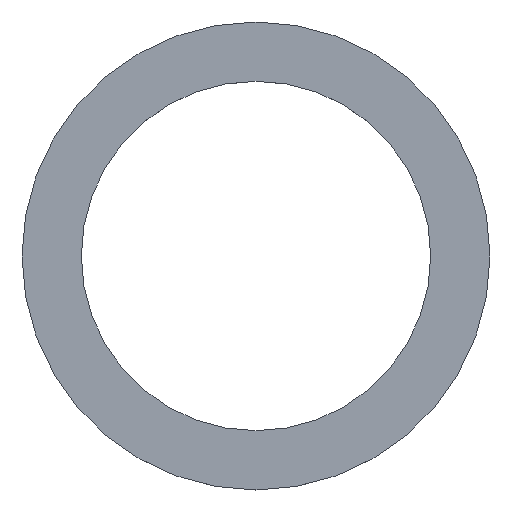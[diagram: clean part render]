
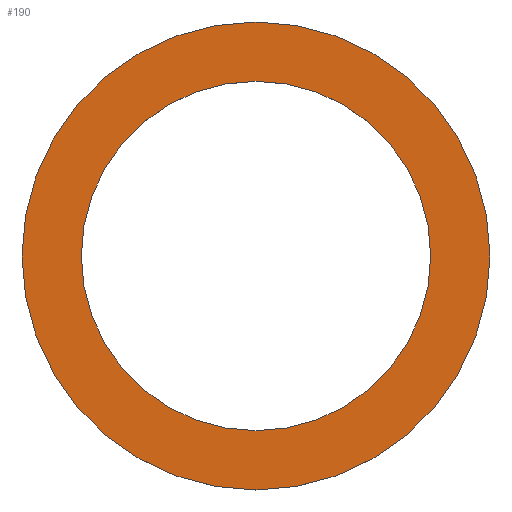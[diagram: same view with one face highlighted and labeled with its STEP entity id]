
A CAD part, top view. The second image highlights one B-rep face of the part: STEP entity #190.
In plain terms, the highlighted planar face has unit normal (0, 0, 1).
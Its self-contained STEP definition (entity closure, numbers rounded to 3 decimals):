
#24 = VERTEX_POINT('',#25);
#25 = CARTESIAN_POINT('',(28.8,0.,2.312));
#32 = CYLINDRICAL_SURFACE('',#33,28.8);
#33 = AXIS2_PLACEMENT_3D('',#34,#35,#36);
#34 = CARTESIAN_POINT('',(0.,0.,1.55));
#35 = DIRECTION('',(-0.,-0.,-1.));
#36 = DIRECTION('',(1.,0.,0.));
#51 = EDGE_CURVE('',#24,#24,#52,.T.);
#52 = SURFACE_CURVE('',#53,(#58,#65),.PCURVE_S1.);
#53 = CIRCLE('',#54,28.8);
#54 = AXIS2_PLACEMENT_3D('',#55,#56,#57);
#55 = CARTESIAN_POINT('',(0.,0.,2.312));
#56 = DIRECTION('',(0.,0.,1.));
#57 = DIRECTION('',(1.,0.,0.));
#58 = PCURVE('',#32,#59);
#59 = DEFINITIONAL_REPRESENTATION('',(#60),#64);
#60 = LINE('',#61,#62);
#61 = CARTESIAN_POINT('',(-0.,-0.762));
#62 = VECTOR('',#63,1.);
#63 = DIRECTION('',(-1.,0.));
#64 = ( GEOMETRIC_REPRESENTATION_CONTEXT(2) 
PARAMETRIC_REPRESENTATION_CONTEXT() REPRESENTATION_CONTEXT('2D SPACE',''
  ) );
#65 = PCURVE('',#66,#71);
#66 = PLANE('',#67);
#67 = AXIS2_PLACEMENT_3D('',#68,#69,#70);
#68 = CARTESIAN_POINT('',(0.,0.,2.312)
  );
#69 = DIRECTION('',(0.,0.,1.));
#70 = DIRECTION('',(1.,0.,-0.));
#71 = DEFINITIONAL_REPRESENTATION('',(#72),#76);
#72 = CIRCLE('',#73,28.8);
#73 = AXIS2_PLACEMENT_2D('',#74,#75);
#74 = CARTESIAN_POINT('',(0.,0.));
#75 = DIRECTION('',(1.,0.));
#76 = ( GEOMETRIC_REPRESENTATION_CONTEXT(2) 
PARAMETRIC_REPRESENTATION_CONTEXT() REPRESENTATION_CONTEXT('2D SPACE',''
  ) );
#112 = VERTEX_POINT('',#113);
#113 = CARTESIAN_POINT('',(21.5,0.,2.312));
#120 = CYLINDRICAL_SURFACE('',#121,21.5);
#121 = AXIS2_PLACEMENT_3D('',#122,#123,#124);
#122 = CARTESIAN_POINT('',(0.,0.,1.55));
#123 = DIRECTION('',(-0.,-0.,-1.));
#124 = DIRECTION('',(1.,0.,0.));
#139 = EDGE_CURVE('',#112,#112,#140,.T.);
#140 = SURFACE_CURVE('',#141,(#146,#153),.PCURVE_S1.);
#141 = CIRCLE('',#142,21.5);
#142 = AXIS2_PLACEMENT_3D('',#143,#144,#145);
#143 = CARTESIAN_POINT('',(0.,0.,2.312)
  );
#144 = DIRECTION('',(0.,0.,1.));
#145 = DIRECTION('',(1.,0.,0.));
#146 = PCURVE('',#120,#147);
#147 = DEFINITIONAL_REPRESENTATION('',(#148),#152);
#148 = LINE('',#149,#150);
#149 = CARTESIAN_POINT('',(-0.,-0.762));
#150 = VECTOR('',#151,1.);
#151 = DIRECTION('',(-1.,0.));
#152 = ( GEOMETRIC_REPRESENTATION_CONTEXT(2) 
PARAMETRIC_REPRESENTATION_CONTEXT() REPRESENTATION_CONTEXT('2D SPACE',''
  ) );
#153 = PCURVE('',#66,#154);
#154 = DEFINITIONAL_REPRESENTATION('',(#155),#159);
#155 = CIRCLE('',#156,21.5);
#156 = AXIS2_PLACEMENT_2D('',#157,#158);
#157 = CARTESIAN_POINT('',(0.,0.));
#158 = DIRECTION('',(1.,0.));
#159 = ( GEOMETRIC_REPRESENTATION_CONTEXT(2) 
PARAMETRIC_REPRESENTATION_CONTEXT() REPRESENTATION_CONTEXT('2D SPACE',''
  ) );
#190 = ADVANCED_FACE('',(#191,#194),#66,.T.);
#191 = FACE_BOUND('',#192,.T.);
#192 = EDGE_LOOP('',(#193));
#193 = ORIENTED_EDGE('',*,*,#51,.T.);
#194 = FACE_BOUND('',#195,.T.);
#195 = EDGE_LOOP('',(#196));
#196 = ORIENTED_EDGE('',*,*,#139,.F.);
